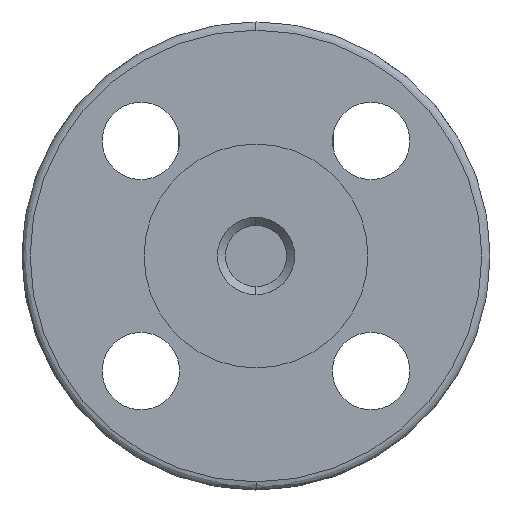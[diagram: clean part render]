
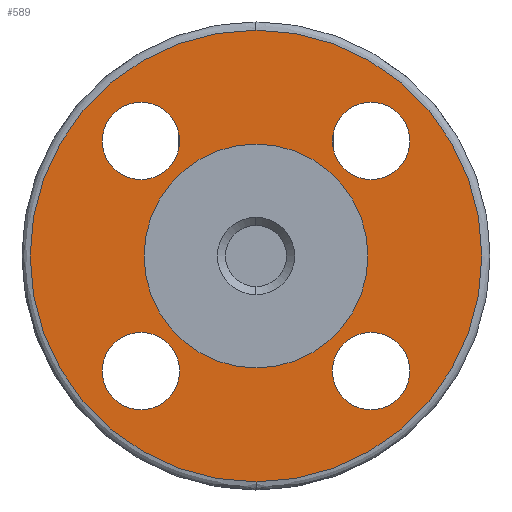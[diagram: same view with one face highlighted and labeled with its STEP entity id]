
A CAD part, left-side view. The second image highlights one B-rep face of the part: STEP entity #589.
In plain terms, the highlighted planar face has unit normal (-1, 0, 0).
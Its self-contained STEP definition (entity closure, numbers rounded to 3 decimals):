
#589=ADVANCED_FACE('',(#2857,#2858,#2859,#2860,#2861,#2862),#2856,.F.);
#2856=PLANE('',#6180);
#2857=FACE_OUTER_BOUND('',#6181,.T.);
#2858=FACE_BOUND('',#6182,.T.);
#2859=FACE_BOUND('',#6183,.T.);
#2860=FACE_BOUND('',#6184,.T.);
#2861=FACE_BOUND('',#6185,.T.);
#2862=FACE_BOUND('',#6186,.T.);
#6177=CARTESIAN_POINT('',(-66.5,-106.129,65.5));
#6178=DIRECTION('',(1.,0.,0.));
#6179=DIRECTION('',(0.,0.,-1.));
#6180=AXIS2_PLACEMENT_3D('',#6177,#6178,#6179);
#6181=EDGE_LOOP('',(#7875,#7876));
#6182=EDGE_LOOP('',(#7877,#7878));
#6183=EDGE_LOOP('',(#7879,#7880));
#6184=EDGE_LOOP('',(#7881,#7882));
#6185=EDGE_LOOP('',(#7883,#7884));
#6186=EDGE_LOOP('',(#7885,#7886));
#7875=ORIENTED_EDGE('',*,*,#8648,.T.);
#7876=ORIENTED_EDGE('',*,*,#8649,.T.);
#7877=ORIENTED_EDGE('',*,*,#8650,.F.);
#7878=ORIENTED_EDGE('',*,*,#8651,.F.);
#7879=ORIENTED_EDGE('',*,*,#8652,.F.);
#7880=ORIENTED_EDGE('',*,*,#8653,.F.);
#7881=ORIENTED_EDGE('',*,*,#8654,.F.);
#7882=ORIENTED_EDGE('',*,*,#8655,.F.);
#7883=ORIENTED_EDGE('',*,*,#8656,.F.);
#7884=ORIENTED_EDGE('',*,*,#8657,.F.);
#7885=ORIENTED_EDGE('',*,*,#8658,.F.);
#7886=ORIENTED_EDGE('',*,*,#8659,.F.);
#8648=EDGE_CURVE('',#12000,#12001,#12002,.T.);
#8649=EDGE_CURVE('',#12001,#12000,#12008,.T.);
#8650=EDGE_CURVE('',#12014,#12015,#12016,.T.);
#8651=EDGE_CURVE('',#12015,#12014,#12022,.T.);
#8652=EDGE_CURVE('',#12028,#12029,#12030,.T.);
#8653=EDGE_CURVE('',#12029,#12028,#12036,.T.);
#8654=EDGE_CURVE('',#12042,#12043,#12044,.T.);
#8655=EDGE_CURVE('',#12043,#12042,#12050,.T.);
#8656=EDGE_CURVE('',#12056,#12057,#12058,.T.);
#8657=EDGE_CURVE('',#12057,#12056,#12064,.T.);
#8658=EDGE_CURVE('',#12070,#12071,#12072,.T.);
#8659=EDGE_CURVE('',#12071,#12070,#12078,.T.);
#12000=VERTEX_POINT('',#15678);
#12001=VERTEX_POINT('',#15679);
#12002=CIRCLE('',#15683,55.5);
#12008=CIRCLE('',#15687,55.5);
#12014=VERTEX_POINT('',#15688);
#12015=VERTEX_POINT('',#15689);
#12016=CIRCLE('',#15693,9.5);
#12022=CIRCLE('',#15697,9.5);
#12028=VERTEX_POINT('',#15698);
#12029=VERTEX_POINT('',#15699);
#12030=CIRCLE('',#15703,27.5);
#12036=CIRCLE('',#15707,27.5);
#12042=VERTEX_POINT('',#15708);
#12043=VERTEX_POINT('',#15709);
#12044=CIRCLE('',#15713,9.5);
#12050=CIRCLE('',#15717,9.5);
#12056=VERTEX_POINT('',#15718);
#12057=VERTEX_POINT('',#15719);
#12058=CIRCLE('',#15723,9.5);
#12064=CIRCLE('',#15727,9.5);
#12070=VERTEX_POINT('',#15728);
#12071=VERTEX_POINT('',#15729);
#12072=CIRCLE('',#15733,9.5);
#12078=CIRCLE('',#15737,9.5);
#15678=CARTESIAN_POINT('',(-66.5,0.,55.5));
#15679=CARTESIAN_POINT('',(-66.5,0.,-55.5));
#15680=CARTESIAN_POINT('',(-66.5,0.,0.));
#15681=DIRECTION('',(-1.,0.,0.));
#15682=DIRECTION('',(0.,0.,1.));
#15683=AXIS2_PLACEMENT_3D('',#15680,#15681,#15682);
#15684=CARTESIAN_POINT('',(-66.5,0.,0.));
#15685=DIRECTION('',(-1.,0.,0.));
#15686=DIRECTION('',(0.,0.,1.));
#15687=AXIS2_PLACEMENT_3D('',#15684,#15685,#15686);
#15688=CARTESIAN_POINT('',(-66.5,28.284,-18.784));
#15689=CARTESIAN_POINT('',(-66.5,28.284,-37.784));
#15690=CARTESIAN_POINT('',(-66.5,28.284,-28.284));
#15691=DIRECTION('',(-1.,0.,0.));
#15692=DIRECTION('',(0.,0.,-1.));
#15693=AXIS2_PLACEMENT_3D('',#15690,#15691,#15692);
#15694=CARTESIAN_POINT('',(-66.5,28.284,-28.284));
#15695=DIRECTION('',(-1.,0.,0.));
#15696=DIRECTION('',(0.,0.,-1.));
#15697=AXIS2_PLACEMENT_3D('',#15694,#15695,#15696);
#15698=CARTESIAN_POINT('',(-66.5,0.,-27.5));
#15699=CARTESIAN_POINT('',(-66.5,0.,27.5));
#15700=CARTESIAN_POINT('',(-66.5,0.,0.));
#15701=DIRECTION('',(-1.,0.,0.));
#15702=DIRECTION('',(0.,0.,1.));
#15703=AXIS2_PLACEMENT_3D('',#15700,#15701,#15702);
#15704=CARTESIAN_POINT('',(-66.5,0.,0.));
#15705=DIRECTION('',(-1.,0.,0.));
#15706=DIRECTION('',(0.,0.,1.));
#15707=AXIS2_PLACEMENT_3D('',#15704,#15705,#15706);
#15708=CARTESIAN_POINT('',(-66.5,-28.284,37.784));
#15709=CARTESIAN_POINT('',(-66.5,-28.284,18.784));
#15710=CARTESIAN_POINT('',(-66.5,-28.284,28.284));
#15711=DIRECTION('',(-1.,0.,0.));
#15712=DIRECTION('',(0.,0.,-1.));
#15713=AXIS2_PLACEMENT_3D('',#15710,#15711,#15712);
#15714=CARTESIAN_POINT('',(-66.5,-28.284,28.284));
#15715=DIRECTION('',(-1.,0.,0.));
#15716=DIRECTION('',(0.,0.,-1.));
#15717=AXIS2_PLACEMENT_3D('',#15714,#15715,#15716);
#15718=CARTESIAN_POINT('',(-66.5,-28.284,-18.784));
#15719=CARTESIAN_POINT('',(-66.5,-28.284,-37.784));
#15720=CARTESIAN_POINT('',(-66.5,-28.284,-28.284));
#15721=DIRECTION('',(-1.,0.,0.));
#15722=DIRECTION('',(0.,0.,-1.));
#15723=AXIS2_PLACEMENT_3D('',#15720,#15721,#15722);
#15724=CARTESIAN_POINT('',(-66.5,-28.284,-28.284));
#15725=DIRECTION('',(-1.,0.,0.));
#15726=DIRECTION('',(0.,0.,-1.));
#15727=AXIS2_PLACEMENT_3D('',#15724,#15725,#15726);
#15728=CARTESIAN_POINT('',(-66.5,28.284,37.784));
#15729=CARTESIAN_POINT('',(-66.5,28.284,18.784));
#15730=CARTESIAN_POINT('',(-66.5,28.284,28.284));
#15731=DIRECTION('',(-1.,0.,0.));
#15732=DIRECTION('',(0.,0.,-1.));
#15733=AXIS2_PLACEMENT_3D('',#15730,#15731,#15732);
#15734=CARTESIAN_POINT('',(-66.5,28.284,28.284));
#15735=DIRECTION('',(-1.,0.,0.));
#15736=DIRECTION('',(0.,0.,-1.));
#15737=AXIS2_PLACEMENT_3D('',#15734,#15735,#15736);
